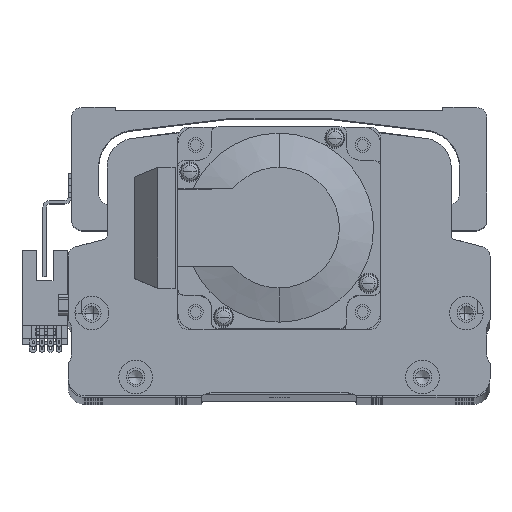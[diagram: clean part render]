
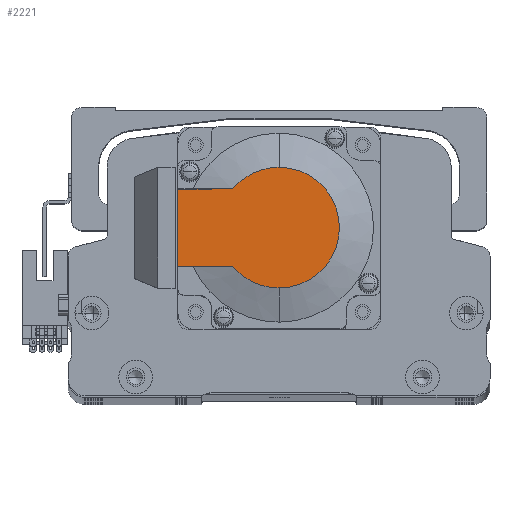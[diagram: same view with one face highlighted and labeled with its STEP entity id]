
A CAD part, top view. The second image highlights one B-rep face of the part: STEP entity #2221.
In plain terms, the highlighted planar face has unit normal (0, 0, 1) as drawn and (-1, 0, 0) by its records, which use the part's own axes.
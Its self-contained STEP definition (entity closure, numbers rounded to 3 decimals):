
#932 = DIRECTION ( 'NONE',  ( -1., 0., 0. ) ) ;
#1538 = CARTESIAN_POINT ( 'NONE',  ( -118.5, 13.735, 11.45 ) ) ;
#2221 = ADVANCED_FACE ( 'NONE', ( #42096 ), #52502, .T. ) ;
#2708 = EDGE_CURVE ( 'NONE', #6389, #9785, #44976, .T. ) ;
#5207 = CARTESIAN_POINT ( 'NONE',  ( -118.5, 30., -11.45 ) ) ;
#6389 = VERTEX_POINT ( 'NONE', #56392 ) ;
#6809 = VERTEX_POINT ( 'NONE', #41899 ) ;
#9415 = AXIS2_PLACEMENT_3D ( 'NONE', #40702, #13242, #45282 ) ;
#9785 = VERTEX_POINT ( 'NONE', #1538 ) ;
#9879 = VECTOR ( 'NONE', #51548, 1000. ) ;
#10139 = CARTESIAN_POINT ( 'NONE',  ( -118.5, -8.941, -11.45 ) ) ;
#12595 = ORIENTED_EDGE ( 'NONE', *, *, #33667, .T. ) ;
#13242 = DIRECTION ( 'NONE',  ( -1., 0., 0. ) ) ;
#16499 = EDGE_CURVE ( 'NONE', #57138, #51900, #31548, .T. ) ;
#17052 = CARTESIAN_POINT ( 'NONE',  ( -118.5, 0., -17.881 ) ) ;
#19503 = CARTESIAN_POINT ( 'NONE',  ( -118.5, 0., 11.45 ) ) ;
#21770 = EDGE_CURVE ( 'NONE', #51213, #6809, #25509, .T. ) ;
#25509 = LINE ( 'NONE', #10139, #37661 ) ;
#25765 = CARTESIAN_POINT ( 'NONE',  ( -118.5, 0., 0. ) ) ;
#25886 = DIRECTION ( 'NONE',  ( -1., 0., 0. ) ) ;
#28417 = CARTESIAN_POINT ( 'NONE',  ( -118.5, -8.941, 0. ) ) ;
#30344 = DIRECTION ( 'NONE',  ( 0., 0., -1. ) ) ;
#31548 = CIRCLE ( 'NONE', #58908, 17.881 ) ;
#32633 = VECTOR ( 'NONE', #58338, 1000. ) ;
#32995 = DIRECTION ( 'NONE',  ( 0., 0., 1. ) ) ;
#33667 = EDGE_CURVE ( 'NONE', #51900, #9785, #59101, .T. ) ;
#34781 = ORIENTED_EDGE ( 'NONE', *, *, #16499, .T. ) ;
#36663 = AXIS2_PLACEMENT_3D ( 'NONE', #28417, #932, #32995 ) ;
#37661 = VECTOR ( 'NONE', #42182, 1000. ) ;
#37744 = ORIENTED_EDGE ( 'NONE', *, *, #21770, .T. ) ;
#40702 = CARTESIAN_POINT ( 'NONE',  ( -118.5, 0., 0. ) ) ;
#41806 = ORIENTED_EDGE ( 'NONE', *, *, #56385, .T. ) ;
#41899 = CARTESIAN_POINT ( 'NONE',  ( -118.5, 13.735, -11.45 ) ) ;
#42096 = FACE_OUTER_BOUND ( 'NONE', #43755, .T. ) ;
#42182 = DIRECTION ( 'NONE',  ( 0., -1., 0. ) ) ;
#43435 = EDGE_CURVE ( 'NONE', #51213, #6389, #58500, .T. ) ;
#43755 = EDGE_LOOP ( 'NONE', ( #37744, #41806, #34781, #12595, #50251, #46433 ) ) ;
#44976 = LINE ( 'NONE', #19503, #9879 ) ;
#45282 = DIRECTION ( 'NONE',  ( 0., 0., -1. ) ) ;
#46433 = ORIENTED_EDGE ( 'NONE', *, *, #43435, .F. ) ;
#50251 = ORIENTED_EDGE ( 'NONE', *, *, #2708, .F. ) ;
#51213 = VERTEX_POINT ( 'NONE', #5207 ) ;
#51548 = DIRECTION ( 'NONE',  ( 0., -1., 0. ) ) ;
#51900 = VERTEX_POINT ( 'NONE', #57411 ) ;
#52502 = PLANE ( 'NONE',  #36663 ) ;
#53303 = CARTESIAN_POINT ( 'NONE',  ( -118.5, 0., 0. ) ) ;
#53719 = CARTESIAN_POINT ( 'NONE',  ( -118.5, 30., 25. ) ) ;
#56031 = AXIS2_PLACEMENT_3D ( 'NONE', #53303, #25886, #57965 ) ;
#56385 = EDGE_CURVE ( 'NONE', #6809, #57138, #57706, .T. ) ;
#56392 = CARTESIAN_POINT ( 'NONE',  ( -118.5, 30., 11.45 ) ) ;
#57138 = VERTEX_POINT ( 'NONE', #17052 ) ;
#57411 = CARTESIAN_POINT ( 'NONE',  ( -118.5, 0., 17.881 ) ) ;
#57706 = CIRCLE ( 'NONE', #9415, 17.881 ) ;
#57830 = DIRECTION ( 'NONE',  ( -1., 0., 0. ) ) ;
#57965 = DIRECTION ( 'NONE',  ( 0., 0., -1. ) ) ;
#58338 = DIRECTION ( 'NONE',  ( 0., 0., 1. ) ) ;
#58500 = LINE ( 'NONE', #53719, #32633 ) ;
#58908 = AXIS2_PLACEMENT_3D ( 'NONE', #25765, #57830, #30344 ) ;
#59101 = CIRCLE ( 'NONE', #56031, 17.881 ) ;
